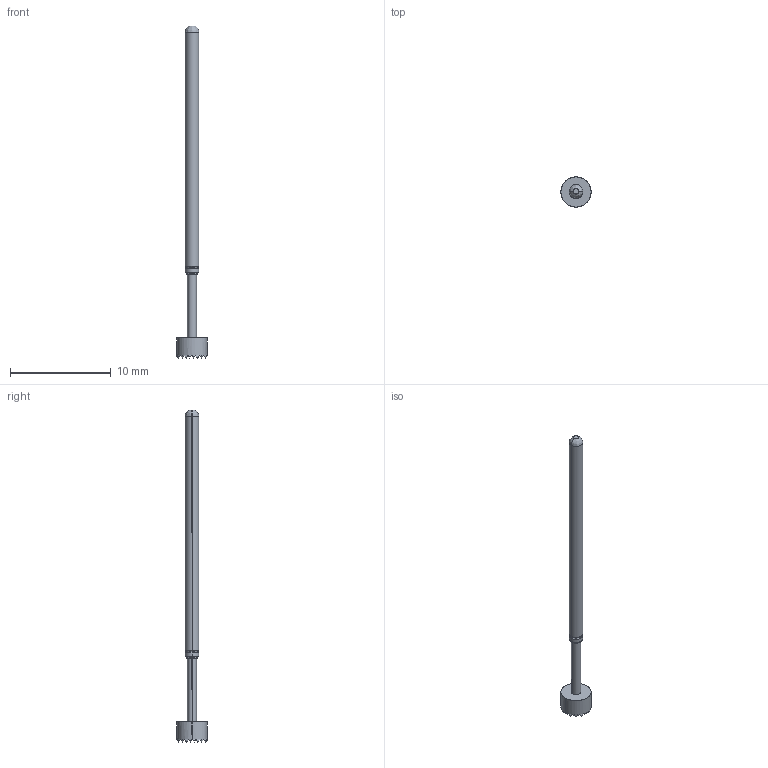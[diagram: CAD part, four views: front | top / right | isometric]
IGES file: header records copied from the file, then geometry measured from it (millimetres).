
Start section: SolidWorks IGES file using analytic representation for surfaces
Global section: file name: \\CODA-VM-SBS\RedirectedFolders\GeorgeD\My Documents\Coda\PA Series\Website\PA4HS-120.IGS; native system: SolidWorks 2022; preprocessor: SolidWorks 2022; author: GeorgeD; date: 220707.150656; units: millimetre
Bounding box: 3 x 3 x 33.02 mm (x, y, z)
Surface area: 160.7 mm2 (no closed solid volume)
Topology: 0 solids, 0 shells, 298 faces, 1642 edges, 1642 vertices
Faces by surface type: bspline 286, revolution 12
